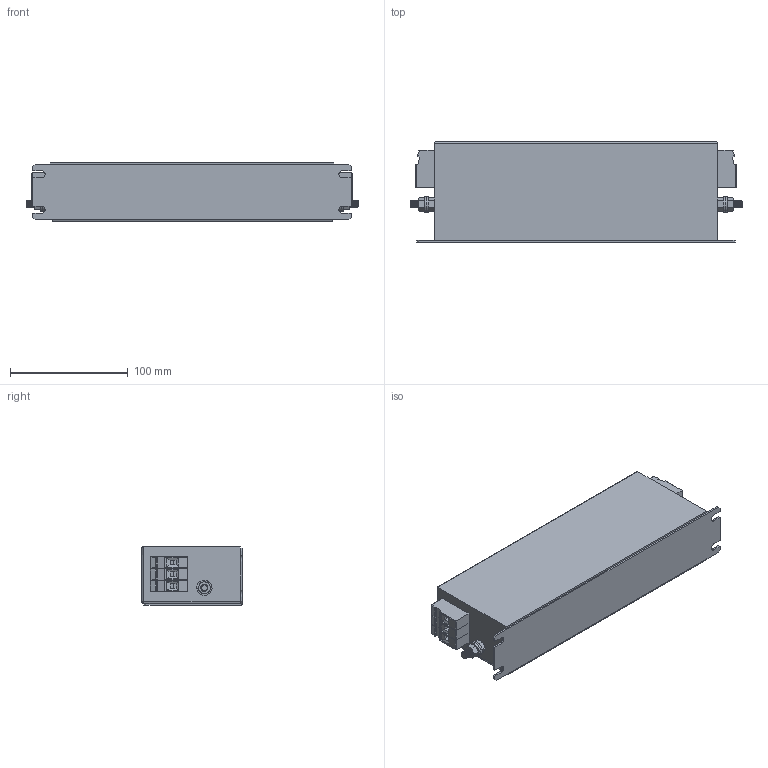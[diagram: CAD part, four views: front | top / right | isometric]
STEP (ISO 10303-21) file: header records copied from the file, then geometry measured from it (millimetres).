
FILE_DESCRIPTION (( 'STEP AP203' ), '1' );
FILE_NAME ('NF-K-30b.STEP', '2008-12-08T12:37:35', ( 'Owner' ), ( 'EPA' ), 'SwSTEP 2.0', 'SolidWorks 2007', '' );
FILE_SCHEMA (( 'CONFIG_CONTROL_DESIGN' ));
Length unit declared in the file: millimetre
Products named in the file (9): NF-K-30; NK-K-30; VDFK6x3; VDFK-6; M6x16 Earth post; NF-K-30b; Hex Screw_AM_B18.6.7M - M6 x 1.0 x 16 Plain HHMS --16S; Flat Washer Narrow_AM_B18.22M - Plain washer, 6 mm, narrow; Hex Nut Style 1_AM_B18.2.4.1M - Hex nut, Style 1,  M6 x 1 --D-N
Assembly tree (13 placements, depth 4):
  NF-K-30b
    NF-K-30
      VDFK6x3  x2
        VDFK-6
      M6x16 Earth post  x2
        Flat Washer Narrow_AM_B18.22M - Plain washer, 6 mm, narrow
        Hex Nut Style 1_AM_B18.2.4.1M - Hex nut, Style 1,  M6 x 1 --D-N
        Hex Screw_AM_B18.6.7M - M6 x 1.0 x 16 Plain HHMS --16S
      NK-K-30
Bounding box: 281.4 x 85 x 50 mm (x, y, z)
Volume: 1006758 mm3; surface area: 115830.3 mm2
Topology: 15 solids, 15 shells, 687 faces, 1633 edges, 994 vertices
Faces by surface type: plane 360, cone 192, cylinder 133, sphere 2
Entity records: 8806 total; most frequent: CARTESIAN_POINT 1503, DIRECTION 1385, ORIENTED_EDGE 1266, EDGE_CURVE 633, AXIS2_PLACEMENT_3D 520, VERTEX_POINT 390, LINE 345, VECTOR 345
